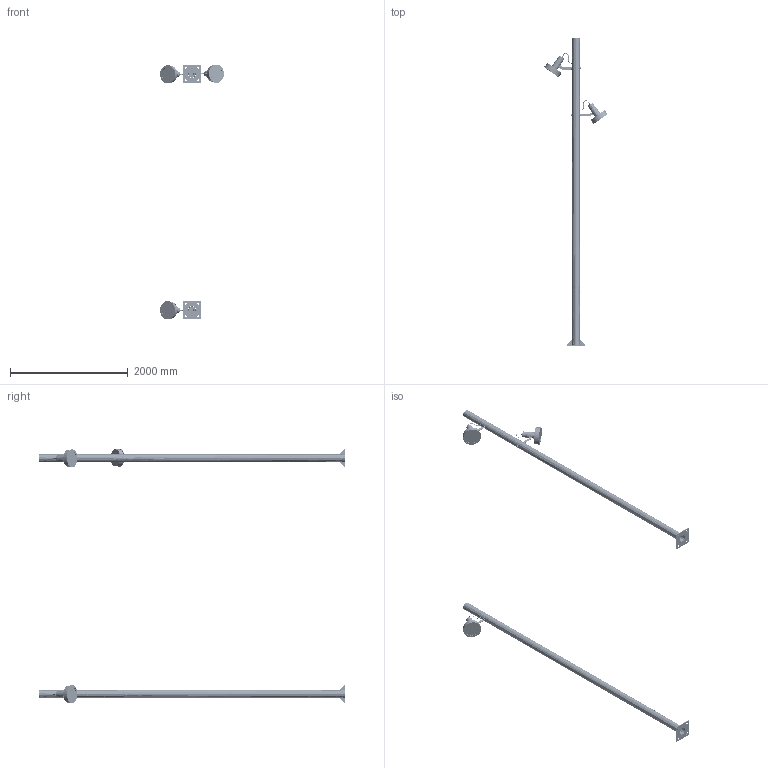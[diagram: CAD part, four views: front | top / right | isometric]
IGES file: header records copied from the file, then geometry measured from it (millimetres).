
Start section: SolidWorks IGES file using analytic representation for surfaces
Global section: file name: C:\SANTACOLE_PDM\Proyectos Catálogo\PROD-P12-019 -- ARNE PROYECTOR LED\6_Técnico comercial\3D WEB\IGES\Arne Columna 520cm 1S 1L-Columna 520cm 1S 2L.IGS; native system: SolidWorks 2013; preprocessor: SolidWorks 2013; author: jordi.munoz; date: 150513.150745; units: millimetre
Bounding box: 1081.89 x 5200 x 4320 mm (x, y, z)
Surface area: 10856929.5 mm2 (no closed solid volume)
Topology: 0 solids, 0 shells, 8907 faces, 79549 edges, 79005 vertices
Faces by surface type: bspline 6095, revolution 2812
